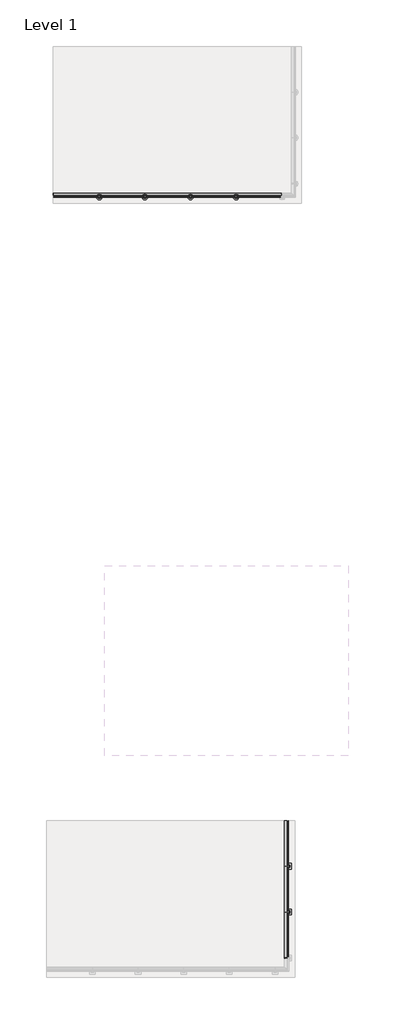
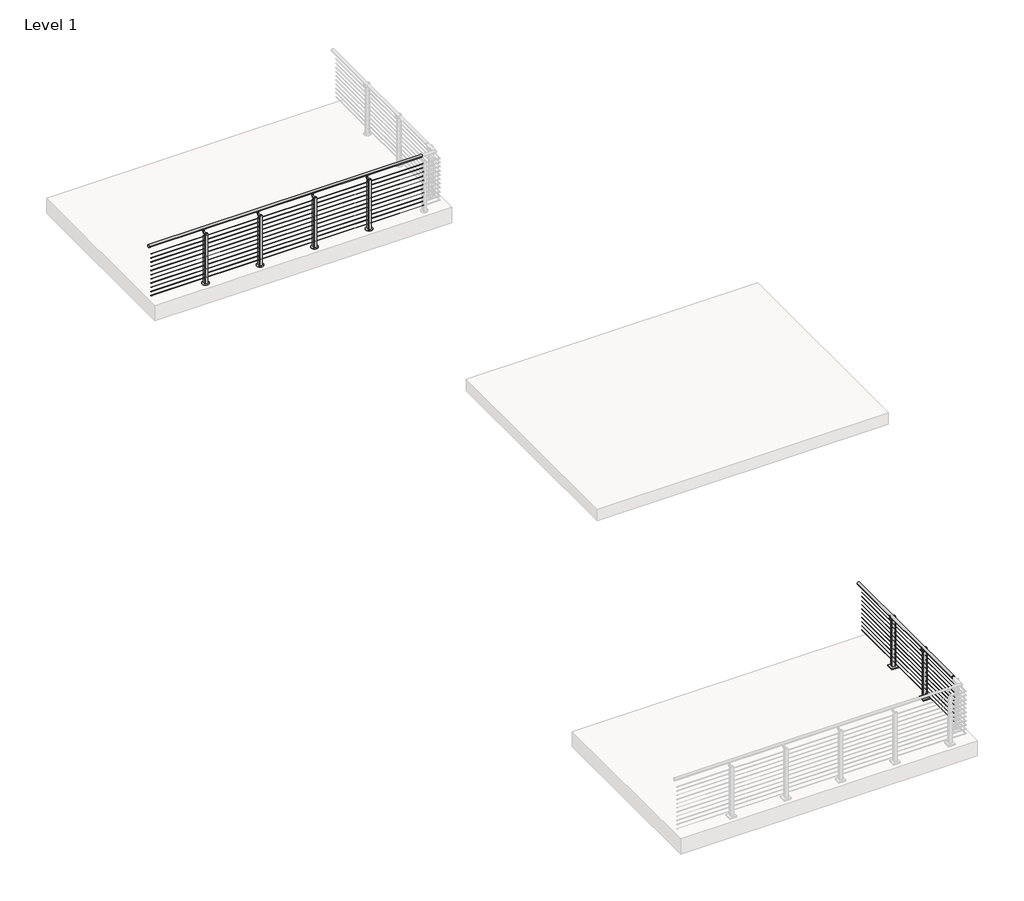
# One storey, part 5 of 9: 2 railings.
"""IFC4 building model written with IfcOpenShell, lengths in millimetres."""

from ifc_helpers import new_model, si_unit, point, frame, frame_2d, origin, origin_with_axes, place, context, project, spatial, polyline, circle_curve, trimmed, segment, composite_curve, outline, extrude, element, save
from ifc_brep_helpers import plane_surface, cylinder_surface, advanced_brep

model = new_model("IFC4")

# Units and contexts
model_context = context("Model", 3, world=origin())
ifc_project = project(units=[si_unit("LENGTHUNIT", "METRE", prefix="MILLI")], contexts=[model_context])

# Site, building, storey
site = spatial("IfcSite", under=ifc_project)
building = spatial("IfcBuilding", under=site)
storey = spatial("IfcBuildingStorey", under=building, Name="Level 1", Elevation=0.0)

# Railings
placement = place(None, origin())
element("IfcRailing", 1, ObjectType="VIVA-TEE-Cable-Core Mount-Straight", at=placement, inside=storey, context=model_context, shape_type="SolidModel", body=[
    advanced_brep(
    [(-5235.0460999, -23177.0084719, 1054.1), (-5235.0460999, -23126.2084719, 1054.1), (-10315.0460999, -23126.2084719, 1054.1), (-10315.0460999, -23177.0084719, 1054.1), (-10325.4777245, -23177.0084719, 1054.1), (-10325.4777245, -23126.2084719, 1054.1)],
    [
        (0, 1, circle_curve(frame((-5235.0460999, -23151.6084719, 1054.1), z_axis=(1.0, 0.0, 0.0), x_axis=(0.0, 1.0, 0.0)), 25.4)),
        (1, 0, circle_curve(frame((-5235.0460999, -23151.6084719, 1054.1), z_axis=(1.0, 0.0, 0.0), x_axis=(0.0, 1.0, 0.0)), 25.4)),
        (2, 3, circle_curve(frame((-10315.0460999, -23151.6084719, 1054.1), z_axis=(1.0, 0.0, 0.0), x_axis=(0.0, 1.0, 0.0)), 25.4)),
        (3, 0),
        (1, 2),
        (3, 2, circle_curve(frame((-10315.0460999, -23151.6084719, 1054.1), z_axis=(1.0, 0.0, 0.0), x_axis=(0.0, 1.0, 0.0)), 25.4)),
        (4, 5, circle_curve(frame((-10325.4777245, -23151.6084719, 1054.1), z_axis=(-1.0, 0.0, 0.0), x_axis=(0.0, 1.0, 0.0)), 25.4)),
        (5, 4, circle_curve(frame((-10325.4777245, -23151.6084719, 1054.1), z_axis=(-1.0, 0.0, 0.0), x_axis=(0.0, 1.0, 0.0)), 25.4)),
        (4, 3),
        (2, 5),
    ],
    [
        plane_surface(frame((-5235.0460999, -23151.6084719, 1079.5), z_axis=(1.0, 0.0, 0.0), x_axis=(0.0, 1.0, 0.0))),
        cylinder_surface(frame((-10315.0460999, -23151.6084719, 1054.1), z_axis=(-1.0, 0.0, 0.0), x_axis=(0.0, 1.0, 0.0)), 25.4),
        plane_surface(frame((-10325.4777245, -23151.6084719, 1079.5), z_axis=(-1.0, 0.0, 0.0), x_axis=(0.0, 1.0, 0.0))),
        cylinder_surface(frame((-10325.4777245, -23151.6084719, 1054.1), z_axis=(-1.0, 0.0, 0.0), x_axis=(0.0, 1.0, 0.0)), 25.4),
    ],
    [
        (0, [[1, 2]]),
        (1, [[3, 4, -2, 5]]),
        (1, [[6, -5, -1, -4]]),
        (2, [[7, 8]]),
        (3, [[-7, 9, -3, 10]]),
        (3, [[-8, -10, -6, -9]]),
    ],
),
    extrude(outline(composite_curve([segment(trimmed(circle_curve(frame_2d((-23211.9334719, 937.4124)), 2.3876), [point((-23209.5458719, 937.4124))], [point((-23214.3210719, 937.4124))], False, "CARTESIAN"), True, "CONTINUOUS"), segment(trimmed(circle_curve(frame_2d((-23211.9334719, 937.4124)), 2.3876), [point((-23214.3210719, 937.4124))], [point((-23209.5458719, 937.4124))], False, "CARTESIAN"), True, "CONTINUOUS")], self_intersect=False)), frame((-10315.0460999, 0.0, 0.0), z_axis=(1.0, 0.0, 0.0), x_axis=(0.0, 1.0, 0.0)), (0.0, 0.0, 1.0), 5080.0),
    extrude(outline(composite_curve([segment(trimmed(circle_curve(frame_2d((-23211.9334719, 854.8624)), 2.3876), [point((-23209.5458719, 854.8624))], [point((-23214.3210719, 854.8624))], False, "CARTESIAN"), True, "CONTINUOUS"), segment(trimmed(circle_curve(frame_2d((-23211.9334719, 854.8624)), 2.3876), [point((-23214.3210719, 854.8624))], [point((-23209.5458719, 854.8624))], False, "CARTESIAN"), True, "CONTINUOUS")], self_intersect=False)), frame((-10315.0460999, 0.0, 0.0), z_axis=(1.0, 0.0, 0.0), x_axis=(0.0, 1.0, 0.0)), (0.0, 0.0, 1.0), 5080.0),
    extrude(outline(composite_curve([segment(trimmed(circle_curve(frame_2d((-23211.9334719, 772.3124)), 2.3876), [point((-23209.5458719, 772.3124))], [point((-23214.3210719, 772.3124))], False, "CARTESIAN"), True, "CONTINUOUS"), segment(trimmed(circle_curve(frame_2d((-23211.9334719, 772.3124)), 2.3876), [point((-23214.3210719, 772.3124))], [point((-23209.5458719, 772.3124))], False, "CARTESIAN"), True, "CONTINUOUS")], self_intersect=False)), frame((-10315.0460999, 0.0, 0.0), z_axis=(1.0, 0.0, 0.0), x_axis=(0.0, 1.0, 0.0)), (0.0, 0.0, 1.0), 5080.0),
    extrude(outline(composite_curve([segment(trimmed(circle_curve(frame_2d((-23211.9334719, 689.7624)), 2.3876), [point((-23209.5458719, 689.7624))], [point((-23214.3210719, 689.7624))], False, "CARTESIAN"), True, "CONTINUOUS"), segment(trimmed(circle_curve(frame_2d((-23211.9334719, 689.7624)), 2.3876), [point((-23214.3210719, 689.7624))], [point((-23209.5458719, 689.7624))], False, "CARTESIAN"), True, "CONTINUOUS")], self_intersect=False)), frame((-10315.0460999, 0.0, 0.0), z_axis=(1.0, 0.0, 0.0), x_axis=(0.0, 1.0, 0.0)), (0.0, 0.0, 1.0), 5080.0),
    extrude(outline(composite_curve([segment(trimmed(circle_curve(frame_2d((-23211.9334719, 607.2124)), 2.3876), [point((-23209.5458719, 607.2124))], [point((-23214.3210719, 607.2124))], False, "CARTESIAN"), True, "CONTINUOUS"), segment(trimmed(circle_curve(frame_2d((-23211.9334719, 607.2124)), 2.3876), [point((-23214.3210719, 607.2124))], [point((-23209.5458719, 607.2124))], False, "CARTESIAN"), True, "CONTINUOUS")], self_intersect=False)), frame((-10315.0460999, 0.0, 0.0), z_axis=(1.0, 0.0, 0.0), x_axis=(0.0, 1.0, 0.0)), (0.0, 0.0, 1.0), 5080.0),
    extrude(outline(composite_curve([segment(trimmed(circle_curve(frame_2d((-23211.9334719, 524.6624)), 2.3876), [point((-23209.5458719, 524.6624))], [point((-23214.3210719, 524.6624))], False, "CARTESIAN"), True, "CONTINUOUS"), segment(trimmed(circle_curve(frame_2d((-23211.9334719, 524.6624)), 2.3876), [point((-23214.3210719, 524.6624))], [point((-23209.5458719, 524.6624))], False, "CARTESIAN"), True, "CONTINUOUS")], self_intersect=False)), frame((-10315.0460999, 0.0, 0.0), z_axis=(1.0, 0.0, 0.0), x_axis=(0.0, 1.0, 0.0)), (0.0, 0.0, 1.0), 5080.0),
    extrude(outline(composite_curve([segment(trimmed(circle_curve(frame_2d((-23211.9334719, 442.1124)), 2.3876), [point((-23209.5458719, 442.1124))], [point((-23214.3210719, 442.1124))], False, "CARTESIAN"), True, "CONTINUOUS"), segment(trimmed(circle_curve(frame_2d((-23211.9334719, 442.1124)), 2.3876), [point((-23214.3210719, 442.1124))], [point((-23209.5458719, 442.1124))], False, "CARTESIAN"), True, "CONTINUOUS")], self_intersect=False)), frame((-10315.0460999, 0.0, 0.0), z_axis=(1.0, 0.0, 0.0), x_axis=(0.0, 1.0, 0.0)), (0.0, 0.0, 1.0), 5080.0),
    extrude(outline(composite_curve([segment(trimmed(circle_curve(frame_2d((-23211.9334719, 359.5624)), 2.3876), [point((-23209.5458719, 359.5624))], [point((-23214.3210719, 359.5624))], False, "CARTESIAN"), True, "CONTINUOUS"), segment(trimmed(circle_curve(frame_2d((-23211.9334719, 359.5624)), 2.3876), [point((-23214.3210719, 359.5624))], [point((-23209.5458719, 359.5624))], False, "CARTESIAN"), True, "CONTINUOUS")], self_intersect=False)), frame((-10315.0460999, 0.0, 0.0), z_axis=(1.0, 0.0, 0.0), x_axis=(0.0, 1.0, 0.0)), (0.0, 0.0, 1.0), 5080.0),
    extrude(outline(composite_curve([segment(trimmed(circle_curve(frame_2d((-23211.9334719, 277.0124)), 2.3876), [point((-23209.5458719, 277.0124))], [point((-23214.3210719, 277.0124))], False, "CARTESIAN"), True, "CONTINUOUS"), segment(trimmed(circle_curve(frame_2d((-23211.9334719, 277.0124)), 2.3876), [point((-23214.3210719, 277.0124))], [point((-23209.5458719, 277.0124))], False, "CARTESIAN"), True, "CONTINUOUS")], self_intersect=False)), frame((-10315.0460999, 0.0, 0.0), z_axis=(1.0, 0.0, 0.0), x_axis=(0.0, 1.0, 0.0)), (0.0, 0.0, 1.0), 5080.0),
    extrude(outline(composite_curve([segment(trimmed(circle_curve(frame_2d((-23211.9334719, 194.4624)), 2.3876), [point((-23209.5458719, 194.4624))], [point((-23214.3210719, 194.4624))], False, "CARTESIAN"), True, "CONTINUOUS"), segment(trimmed(circle_curve(frame_2d((-23211.9334719, 194.4624)), 2.3876), [point((-23214.3210719, 194.4624))], [point((-23209.5458719, 194.4624))], False, "CARTESIAN"), True, "CONTINUOUS")], self_intersect=False)), frame((-10315.0460999, 0.0, 0.0), z_axis=(1.0, 0.0, 0.0), x_axis=(0.0, 1.0, 0.0)), (0.0, 0.0, 1.0), 5080.0),
    extrude(outline(composite_curve([segment(trimmed(circle_curve(frame_2d((-23211.9334719, 111.9124)), 2.3876), [point((-23209.5458719, 111.9124))], [point((-23214.3210719, 111.9124))], False, "CARTESIAN"), True, "CONTINUOUS"), segment(trimmed(circle_curve(frame_2d((-23211.9334719, 111.9124)), 2.3876), [point((-23214.3210719, 111.9124))], [point((-23209.5458719, 111.9124))], False, "CARTESIAN"), True, "CONTINUOUS")], self_intersect=False)), frame((-10315.0460999, 0.0, 0.0), z_axis=(1.0, 0.0, 0.0), x_axis=(0.0, 1.0, 0.0)), (0.0, 0.0, 1.0), 5080.0),
    extrude(outline(composite_curve([segment(trimmed(circle_curve(frame_2d((0.0, 7.0)), 7.0), [point((0.0, 14.0))], [point((0.0, 0.0))], False, "CARTESIAN"), True, "CONTINUOUS"), segment(trimmed(circle_curve(frame_2d((0.0, 7.0)), 7.0), [point((0.0, 0.0))], [point((0.0, 14.0))], False, "CARTESIAN"), True, "CONTINUOUS")], self_intersect=False)), frame((-6250.97239, -23158.3183256, 949.1832524), z_axis=(0.004253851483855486, 0.0, 0.9999909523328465), x_axis=(0.9999909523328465, 0.0, -0.004253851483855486)), (0.0, 0.0, 1.0), 75.97),
    extrude(outline(composite_curve([segment(trimmed(circle_curve(frame_2d((-23151.1769216, 1047.2025651)), 19.05), [point((-23164.7065099, 1033.7916463))], [point((-23137.6473334, 1033.7916463))], True, "CARTESIAN"), True, "CONTINUOUS"), segment(polyline([(-23137.6473334, 1033.7916463), (-23136.6209438, 1032.7742593)]), True, "CONTINUOUS"), segment(trimmed(circle_curve(frame_2d((-23137.6769216, 1031.7089374)), 1.5), [point((-23136.6209438, 1032.7742593))], [point((-23136.6915202, 1030.5780156))], False, "CARTESIAN"), True, "CONTINUOUS"), segment(trimmed(circle_curve(frame_2d((-23151.1769216, 1047.2025651)), 22.05), [point((-23136.6915202, 1030.5780156))], [point((-23165.6623231, 1030.5780156))], False, "CARTESIAN"), True, "CONTINUOUS"), segment(trimmed(circle_curve(frame_2d((-23164.6769216, 1031.7089374)), 1.5), [point((-23165.6623231, 1030.5780156))], [point((-23165.7328995, 1032.7742593))], False, "CARTESIAN"), True, "CONTINUOUS"), segment(polyline([(-23165.7328995, 1032.7742593), (-23164.7065099, 1033.7916463)]), True, "CONTINUOUS")], self_intersect=False)), frame((-6286.5108641, 0.0, 0.0), z_axis=(1.0, 0.0, 0.0), x_axis=(0.0, 1.0, 0.0)), (0.0, 0.0, 1.0), 74.5229187),
    extrude(outline(composite_curve([segment(trimmed(circle_curve(frame_2d((976.1259188, -6250.7680595)), 12.5), [point((976.1259188, -6263.2680595))], [point((976.1259188, -6238.2680595))], False, "CARTESIAN"), True, "CONTINUOUS"), segment(trimmed(circle_curve(frame_2d((976.1259188, -6250.7680595)), 12.5), [point((976.1259188, -6238.2680595))], [point((976.1259188, -6263.2680595))], False, "CARTESIAN"), True, "CONTINUOUS")], self_intersect=False)), frame((0.0, -23231.0843116, 0.0), z_axis=(0.0, 1.0, 0.0), x_axis=(0.0, 0.0, 1.0)), (0.0, 0.0, 1.0), 92.423),
    extrude(outline(composite_curve([segment(trimmed(circle_curve(frame_2d((-6250.6492249, -23211.9334719)), 63.5), [point((-6250.6492249, -23275.4334719))], [point((-6250.6492249, -23148.4334719))], False, "CARTESIAN"), True, "CONTINUOUS"), segment(trimmed(circle_curve(frame_2d((-6250.6492249, -23211.9334719)), 63.5), [point((-6250.6492249, -23148.4334719))], [point((-6250.6492249, -23275.4334719))], False, "CARTESIAN"), True, "CONTINUOUS")], self_intersect=False)), origin_with_axes(), (0.0, 0.0, 1.0), 6.35),
    extrude(outline(composite_curve([segment(trimmed(circle_curve(frame_2d((-23204.9180203, 924.2425)), 24.765), [point((-23204.9180203, 949.0075))], [point((-23180.1530203, 924.2425))], False, "CARTESIAN"), True, "CONTINUOUS"), segment(polyline([(-23180.1530203, 924.2425), (-23180.1530203, -196.85), (-23230.9834719, -196.85), (-23230.9834719, 949.0075), (-23204.9180203, 949.0075)]), True, "CONTINUOUS")], self_intersect=False)), frame((-6236.6457253, 0.0, 0.0), z_axis=(1.0, 0.0, 0.0), x_axis=(0.0, 1.0, 0.0)), (0.0, 0.0, 1.0), 9.525),
    extrude(outline(composite_curve([segment(polyline([(-196.85, -6225.2492249), (979.17, -6225.2492249)]), True, "CONTINUOUS"), segment(trimmed(circle_curve(frame_2d((979.17, -6250.6492249)), 25.4), [point((979.17, -6225.2492249))], [point((979.17, -6276.0492249))], False, "CARTESIAN"), True, "CONTINUOUS"), segment(polyline([(979.17, -6276.0492249), (-196.85, -6276.0492249), (-196.85, -6225.2492249)]), True, "CONTINUOUS")], self_intersect=False)), frame((0.0, -23240.5084719, 0.0), z_axis=(0.0, 1.0, 0.0), x_axis=(0.0, 0.0, 1.0)), (0.0, 0.0, 1.0), 9.525),
    extrude(outline(composite_curve([segment(trimmed(circle_curve(frame_2d((-23204.9180203, 924.2425)), 24.765), [point((-23204.9180203, 949.0075))], [point((-23180.1530203, 924.2425))], False, "CARTESIAN"), True, "CONTINUOUS"), segment(polyline([(-23180.1530203, 924.2425), (-23180.1530203, -196.85), (-23230.9834719, -196.85), (-23230.9834719, 949.0075), (-23204.9180203, 949.0075)]), True, "CONTINUOUS")], self_intersect=False)), frame((-6274.1777245, 0.0, 0.0), z_axis=(1.0, 0.0, 0.0), x_axis=(0.0, 1.0, 0.0)), (0.0, 0.0, 1.0), 9.525),
    extrude(outline(composite_curve([segment(trimmed(circle_curve(frame_2d((0.0, 7.0)), 7.0), [point((0.0, 14.0))], [point((0.0, 0.0))], False, "CARTESIAN"), True, "CONTINUOUS"), segment(trimmed(circle_curve(frame_2d((0.0, 7.0)), 7.0), [point((0.0, 0.0))], [point((0.0, 14.0))], False, "CARTESIAN"), True, "CONTINUOUS")], self_intersect=False)), frame((-7266.97239, -23158.3183256, 949.1832524), z_axis=(0.004253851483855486, 0.0, 0.9999909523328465), x_axis=(0.9999909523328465, 0.0, -0.004253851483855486)), (0.0, 0.0, 1.0), 75.97),
    extrude(outline(composite_curve([segment(trimmed(circle_curve(frame_2d((-23151.1769216, 1047.2025651)), 19.05), [point((-23164.7065099, 1033.7916463))], [point((-23137.6473334, 1033.7916463))], True, "CARTESIAN"), True, "CONTINUOUS"), segment(polyline([(-23137.6473334, 1033.7916463), (-23136.6209438, 1032.7742593)]), True, "CONTINUOUS"), segment(trimmed(circle_curve(frame_2d((-23137.6769216, 1031.7089374)), 1.5), [point((-23136.6209438, 1032.7742593))], [point((-23136.6915202, 1030.5780156))], False, "CARTESIAN"), True, "CONTINUOUS"), segment(trimmed(circle_curve(frame_2d((-23151.1769216, 1047.2025651)), 22.05), [point((-23136.6915202, 1030.5780156))], [point((-23165.6623231, 1030.5780156))], False, "CARTESIAN"), True, "CONTINUOUS"), segment(trimmed(circle_curve(frame_2d((-23164.6769216, 1031.7089374)), 1.5), [point((-23165.6623231, 1030.5780156))], [point((-23165.7328995, 1032.7742593))], False, "CARTESIAN"), True, "CONTINUOUS"), segment(polyline([(-23165.7328995, 1032.7742593), (-23164.7065099, 1033.7916463)]), True, "CONTINUOUS")], self_intersect=False)), frame((-7302.5108641, 0.0, 0.0), z_axis=(1.0, 0.0, 0.0), x_axis=(0.0, 1.0, 0.0)), (0.0, 0.0, 1.0), 74.5229187),
    extrude(outline(composite_curve([segment(trimmed(circle_curve(frame_2d((976.1259188, -7266.7680595)), 12.5), [point((976.1259188, -7279.2680595))], [point((976.1259188, -7254.2680595))], False, "CARTESIAN"), True, "CONTINUOUS"), segment(trimmed(circle_curve(frame_2d((976.1259188, -7266.7680595)), 12.5), [point((976.1259188, -7254.2680595))], [point((976.1259188, -7279.2680595))], False, "CARTESIAN"), True, "CONTINUOUS")], self_intersect=False)), frame((0.0, -23231.0843116, 0.0), z_axis=(0.0, 1.0, 0.0), x_axis=(0.0, 0.0, 1.0)), (0.0, 0.0, 1.0), 92.423),
    extrude(outline(composite_curve([segment(trimmed(circle_curve(frame_2d((-7266.6492249, -23211.9334719)), 63.5), [point((-7266.6492249, -23275.4334719))], [point((-7266.6492249, -23148.4334719))], False, "CARTESIAN"), True, "CONTINUOUS"), segment(trimmed(circle_curve(frame_2d((-7266.6492249, -23211.9334719)), 63.5), [point((-7266.6492249, -23148.4334719))], [point((-7266.6492249, -23275.4334719))], False, "CARTESIAN"), True, "CONTINUOUS")], self_intersect=False)), origin_with_axes(), (0.0, 0.0, 1.0), 6.35),
    extrude(outline(composite_curve([segment(trimmed(circle_curve(frame_2d((-23204.9180203, 924.2425)), 24.765), [point((-23204.9180203, 949.0075))], [point((-23180.1530203, 924.2425))], False, "CARTESIAN"), True, "CONTINUOUS"), segment(polyline([(-23180.1530203, 924.2425), (-23180.1530203, -196.85), (-23230.9834719, -196.85), (-23230.9834719, 949.0075), (-23204.9180203, 949.0075)]), True, "CONTINUOUS")], self_intersect=False)), frame((-7252.6457253, 0.0, 0.0), z_axis=(1.0, 0.0, 0.0), x_axis=(0.0, 1.0, 0.0)), (0.0, 0.0, 1.0), 9.525),
    extrude(outline(composite_curve([segment(polyline([(-196.85, -7241.2492249), (979.17, -7241.2492249)]), True, "CONTINUOUS"), segment(trimmed(circle_curve(frame_2d((979.17, -7266.6492249)), 25.4), [point((979.17, -7241.2492249))], [point((979.17, -7292.0492249))], False, "CARTESIAN"), True, "CONTINUOUS"), segment(polyline([(979.17, -7292.0492249), (-196.85, -7292.0492249), (-196.85, -7241.2492249)]), True, "CONTINUOUS")], self_intersect=False)), frame((0.0, -23240.5084719, 0.0), z_axis=(0.0, 1.0, 0.0), x_axis=(0.0, 0.0, 1.0)), (0.0, 0.0, 1.0), 9.525),
    extrude(outline(composite_curve([segment(trimmed(circle_curve(frame_2d((-23204.9180203, 924.2425)), 24.765), [point((-23204.9180203, 949.0075))], [point((-23180.1530203, 924.2425))], False, "CARTESIAN"), True, "CONTINUOUS"), segment(polyline([(-23180.1530203, 924.2425), (-23180.1530203, -196.85), (-23230.9834719, -196.85), (-23230.9834719, 949.0075), (-23204.9180203, 949.0075)]), True, "CONTINUOUS")], self_intersect=False)), frame((-7290.1777245, 0.0, 0.0), z_axis=(1.0, 0.0, 0.0), x_axis=(0.0, 1.0, 0.0)), (0.0, 0.0, 1.0), 9.525),
    extrude(outline(composite_curve([segment(trimmed(circle_curve(frame_2d((0.0, 7.0)), 7.0), [point((0.0, 14.0))], [point((0.0, 0.0))], False, "CARTESIAN"), True, "CONTINUOUS"), segment(trimmed(circle_curve(frame_2d((0.0, 7.0)), 7.0), [point((0.0, 0.0))], [point((0.0, 14.0))], False, "CARTESIAN"), True, "CONTINUOUS")], self_intersect=False)), frame((-8282.97239, -23158.3183256, 949.1832524), z_axis=(0.004253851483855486, 0.0, 0.9999909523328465), x_axis=(0.9999909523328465, 0.0, -0.004253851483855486)), (0.0, 0.0, 1.0), 75.97),
    extrude(outline(composite_curve([segment(trimmed(circle_curve(frame_2d((-23151.1769216, 1047.2025651)), 19.05), [point((-23164.7065099, 1033.7916463))], [point((-23137.6473334, 1033.7916463))], True, "CARTESIAN"), True, "CONTINUOUS"), segment(polyline([(-23137.6473334, 1033.7916463), (-23136.6209438, 1032.7742593)]), True, "CONTINUOUS"), segment(trimmed(circle_curve(frame_2d((-23137.6769216, 1031.7089374)), 1.5), [point((-23136.6209438, 1032.7742593))], [point((-23136.6915202, 1030.5780156))], False, "CARTESIAN"), True, "CONTINUOUS"), segment(trimmed(circle_curve(frame_2d((-23151.1769216, 1047.2025651)), 22.05), [point((-23136.6915202, 1030.5780156))], [point((-23165.6623231, 1030.5780156))], False, "CARTESIAN"), True, "CONTINUOUS"), segment(trimmed(circle_curve(frame_2d((-23164.6769216, 1031.7089374)), 1.5), [point((-23165.6623231, 1030.5780156))], [point((-23165.7328995, 1032.7742593))], False, "CARTESIAN"), True, "CONTINUOUS"), segment(polyline([(-23165.7328995, 1032.7742593), (-23164.7065099, 1033.7916463)]), True, "CONTINUOUS")], self_intersect=False)), frame((-8318.5108641, 0.0, 0.0), z_axis=(1.0, 0.0, 0.0), x_axis=(0.0, 1.0, 0.0)), (0.0, 0.0, 1.0), 74.5229187),
    extrude(outline(composite_curve([segment(trimmed(circle_curve(frame_2d((976.1259188, -8282.7680595)), 12.5), [point((976.1259188, -8295.2680595))], [point((976.1259188, -8270.2680595))], False, "CARTESIAN"), True, "CONTINUOUS"), segment(trimmed(circle_curve(frame_2d((976.1259188, -8282.7680595)), 12.5), [point((976.1259188, -8270.2680595))], [point((976.1259188, -8295.2680595))], False, "CARTESIAN"), True, "CONTINUOUS")], self_intersect=False)), frame((0.0, -23231.0843116, 0.0), z_axis=(0.0, 1.0, 0.0), x_axis=(0.0, 0.0, 1.0)), (0.0, 0.0, 1.0), 92.423),
    extrude(outline(composite_curve([segment(trimmed(circle_curve(frame_2d((-8282.6492249, -23211.9334719)), 63.5), [point((-8282.6492249, -23275.4334719))], [point((-8282.6492249, -23148.4334719))], False, "CARTESIAN"), True, "CONTINUOUS"), segment(trimmed(circle_curve(frame_2d((-8282.6492249, -23211.9334719)), 63.5), [point((-8282.6492249, -23148.4334719))], [point((-8282.6492249, -23275.4334719))], False, "CARTESIAN"), True, "CONTINUOUS")], self_intersect=False)), origin_with_axes(), (0.0, 0.0, 1.0), 6.35),
    extrude(outline(composite_curve([segment(trimmed(circle_curve(frame_2d((-23204.9180203, 924.2425)), 24.765), [point((-23204.9180203, 949.0075))], [point((-23180.1530203, 924.2425))], False, "CARTESIAN"), True, "CONTINUOUS"), segment(polyline([(-23180.1530203, 924.2425), (-23180.1530203, -196.85), (-23230.9834719, -196.85), (-23230.9834719, 949.0075), (-23204.9180203, 949.0075)]), True, "CONTINUOUS")], self_intersect=False)), frame((-8268.6457253, 0.0, 0.0), z_axis=(1.0, 0.0, 0.0), x_axis=(0.0, 1.0, 0.0)), (0.0, 0.0, 1.0), 9.525),
    extrude(outline(composite_curve([segment(polyline([(-196.85, -8257.2492249), (979.17, -8257.2492249)]), True, "CONTINUOUS"), segment(trimmed(circle_curve(frame_2d((979.17, -8282.6492249)), 25.4), [point((979.17, -8257.2492249))], [point((979.17, -8308.0492249))], False, "CARTESIAN"), True, "CONTINUOUS"), segment(polyline([(979.17, -8308.0492249), (-196.85, -8308.0492249), (-196.85, -8257.2492249)]), True, "CONTINUOUS")], self_intersect=False)), frame((0.0, -23240.5084719, 0.0), z_axis=(0.0, 1.0, 0.0), x_axis=(0.0, 0.0, 1.0)), (0.0, 0.0, 1.0), 9.525),
    extrude(outline(composite_curve([segment(trimmed(circle_curve(frame_2d((-23204.9180203, 924.2425)), 24.765), [point((-23204.9180203, 949.0075))], [point((-23180.1530203, 924.2425))], False, "CARTESIAN"), True, "CONTINUOUS"), segment(polyline([(-23180.1530203, 924.2425), (-23180.1530203, -196.85), (-23230.9834719, -196.85), (-23230.9834719, 949.0075), (-23204.9180203, 949.0075)]), True, "CONTINUOUS")], self_intersect=False)), frame((-8306.1777245, 0.0, 0.0), z_axis=(1.0, 0.0, 0.0), x_axis=(0.0, 1.0, 0.0)), (0.0, 0.0, 1.0), 9.525),
    extrude(outline(composite_curve([segment(trimmed(circle_curve(frame_2d((0.0, 7.0)), 7.0), [point((0.0, 14.0))], [point((0.0, 0.0))], False, "CARTESIAN"), True, "CONTINUOUS"), segment(trimmed(circle_curve(frame_2d((0.0, 7.0)), 7.0), [point((0.0, 0.0))], [point((0.0, 14.0))], False, "CARTESIAN"), True, "CONTINUOUS")], self_intersect=False)), frame((-9298.97239, -23158.3183256, 949.1832524), z_axis=(0.004253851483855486, 0.0, 0.9999909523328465), x_axis=(0.9999909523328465, 0.0, -0.004253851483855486)), (0.0, 0.0, 1.0), 75.97),
    extrude(outline(composite_curve([segment(trimmed(circle_curve(frame_2d((-23151.1769216, 1047.2025651)), 19.05), [point((-23164.7065099, 1033.7916463))], [point((-23137.6473334, 1033.7916463))], True, "CARTESIAN"), True, "CONTINUOUS"), segment(polyline([(-23137.6473334, 1033.7916463), (-23136.6209438, 1032.7742593)]), True, "CONTINUOUS"), segment(trimmed(circle_curve(frame_2d((-23137.6769216, 1031.7089374)), 1.5), [point((-23136.6209438, 1032.7742593))], [point((-23136.6915202, 1030.5780156))], False, "CARTESIAN"), True, "CONTINUOUS"), segment(trimmed(circle_curve(frame_2d((-23151.1769216, 1047.2025651)), 22.05), [point((-23136.6915202, 1030.5780156))], [point((-23165.6623231, 1030.5780156))], False, "CARTESIAN"), True, "CONTINUOUS"), segment(trimmed(circle_curve(frame_2d((-23164.6769216, 1031.7089374)), 1.5), [point((-23165.6623231, 1030.5780156))], [point((-23165.7328995, 1032.7742593))], False, "CARTESIAN"), True, "CONTINUOUS"), segment(polyline([(-23165.7328995, 1032.7742593), (-23164.7065099, 1033.7916463)]), True, "CONTINUOUS")], self_intersect=False)), frame((-9334.5108641, 0.0, 0.0), z_axis=(1.0, 0.0, 0.0), x_axis=(0.0, 1.0, 0.0)), (0.0, 0.0, 1.0), 74.5229187),
    extrude(outline(composite_curve([segment(trimmed(circle_curve(frame_2d((976.1259188, -9298.7680595)), 12.5), [point((976.1259188, -9311.2680595))], [point((976.1259188, -9286.2680595))], False, "CARTESIAN"), True, "CONTINUOUS"), segment(trimmed(circle_curve(frame_2d((976.1259188, -9298.7680595)), 12.5), [point((976.1259188, -9286.2680595))], [point((976.1259188, -9311.2680595))], False, "CARTESIAN"), True, "CONTINUOUS")], self_intersect=False)), frame((0.0, -23231.0843116, 0.0), z_axis=(0.0, 1.0, 0.0), x_axis=(0.0, 0.0, 1.0)), (0.0, 0.0, 1.0), 92.423),
    extrude(outline(composite_curve([segment(trimmed(circle_curve(frame_2d((-9298.6492249, -23211.9334719)), 63.5), [point((-9298.6492249, -23275.4334719))], [point((-9298.6492249, -23148.4334719))], False, "CARTESIAN"), True, "CONTINUOUS"), segment(trimmed(circle_curve(frame_2d((-9298.6492249, -23211.9334719)), 63.5), [point((-9298.6492249, -23148.4334719))], [point((-9298.6492249, -23275.4334719))], False, "CARTESIAN"), True, "CONTINUOUS")], self_intersect=False)), origin_with_axes(), (0.0, 0.0, 1.0), 6.35),
    extrude(outline(composite_curve([segment(trimmed(circle_curve(frame_2d((-23204.9180203, 924.2425)), 24.765), [point((-23204.9180203, 949.0075))], [point((-23180.1530203, 924.2425))], False, "CARTESIAN"), True, "CONTINUOUS"), segment(polyline([(-23180.1530203, 924.2425), (-23180.1530203, -196.85), (-23230.9834719, -196.85), (-23230.9834719, 949.0075), (-23204.9180203, 949.0075)]), True, "CONTINUOUS")], self_intersect=False)), frame((-9284.6457253, 0.0, 0.0), z_axis=(1.0, 0.0, 0.0), x_axis=(0.0, 1.0, 0.0)), (0.0, 0.0, 1.0), 9.525),
    extrude(outline(composite_curve([segment(polyline([(-196.85, -9273.2492249), (979.17, -9273.2492249)]), True, "CONTINUOUS"), segment(trimmed(circle_curve(frame_2d((979.17, -9298.6492249)), 25.4), [point((979.17, -9273.2492249))], [point((979.17, -9324.0492249))], False, "CARTESIAN"), True, "CONTINUOUS"), segment(polyline([(979.17, -9324.0492249), (-196.85, -9324.0492249), (-196.85, -9273.2492249)]), True, "CONTINUOUS")], self_intersect=False)), frame((0.0, -23240.5084719, 0.0), z_axis=(0.0, 1.0, 0.0), x_axis=(0.0, 0.0, 1.0)), (0.0, 0.0, 1.0), 9.525),
    extrude(outline(composite_curve([segment(trimmed(circle_curve(frame_2d((-23204.9180203, 924.2425)), 24.765), [point((-23204.9180203, 949.0075))], [point((-23180.1530203, 924.2425))], False, "CARTESIAN"), True, "CONTINUOUS"), segment(polyline([(-23180.1530203, 924.2425), (-23180.1530203, -196.85), (-23230.9834719, -196.85), (-23230.9834719, 949.0075), (-23204.9180203, 949.0075)]), True, "CONTINUOUS")], self_intersect=False)), frame((-9322.1777245, 0.0, 0.0), z_axis=(1.0, 0.0, 0.0), x_axis=(0.0, 1.0, 0.0)), (0.0, 0.0, 1.0), 9.525),
])
element("IfcRailing", 2, ObjectType="VIVA-TEE-Cable-Floor Mount-Straight", at=placement, inside=storey, context=model_context, shape_type="SolidModel", body=[
    advanced_brep(
    [(-5119.8394753, -40152.4726373, 1054.1), (-5170.6394753, -40152.4726373, 1054.1), (-5119.8394753, -40142.7434438, 1054.1), (-5170.6394753, -40142.7434438, 1054.1), (-5119.8394753, -37094.7434438, 1054.1), (-5170.6394753, -37094.7434438, 1054.1)],
    [
        (0, 1, circle_curve(frame((-5145.2394753, -40152.4726373, 1054.1), z_axis=(0.0, -1.0, 0.0), x_axis=(-1.0, 0.0, 0.0)), 25.4)),
        (1, 0, circle_curve(frame((-5145.2394753, -40152.4726373, 1054.1), z_axis=(0.0, -1.0, 0.0), x_axis=(-1.0, 0.0, 0.0)), 25.4)),
        (0, 2),
        (2, 3, circle_curve(frame((-5145.2394753, -40142.7434438, 1054.1), z_axis=(0.0, -1.0, 0.0), x_axis=(-1.0, 0.0, 0.0)), 25.4)),
        (3, 1),
        (3, 2, circle_curve(frame((-5145.2394753, -40142.7434438, 1054.1), z_axis=(0.0, -1.0, 0.0), x_axis=(-1.0, 0.0, 0.0)), 25.4)),
        (4, 5, circle_curve(frame((-5145.2394753, -37094.7434438, 1054.1), z_axis=(0.0, 1.0, 0.0), x_axis=(-1.0, 0.0, 0.0)), 25.4)),
        (5, 4, circle_curve(frame((-5145.2394753, -37094.7434438, 1054.1), z_axis=(0.0, 1.0, 0.0), x_axis=(-1.0, 0.0, 0.0)), 25.4)),
        (2, 4),
        (5, 3),
    ],
    [
        plane_surface(frame((-5145.2394753, -40152.4726373, 1079.5), z_axis=(0.0, -1.0, 0.0), x_axis=(0.0, 0.0, 1.0))),
        cylinder_surface(frame((-5145.2394753, -40152.4726373, 1054.1), z_axis=(0.0, -1.0, 0.0), x_axis=(-1.0, 0.0, 0.0)), 25.4),
        plane_surface(frame((-5145.2394753, -37094.7434438, 1079.5), z_axis=(0.0, 1.0, 0.0), x_axis=(0.0, 0.0, 1.0))),
        cylinder_surface(frame((-5145.2394753, -40142.7434438, 1054.1), z_axis=(0.0, -1.0, 0.0), x_axis=(-1.0, 0.0, 0.0)), 25.4),
    ],
    [
        (0, [[1, 2]]),
        (1, [[-1, 3, 4, 5]]),
        (1, [[-2, -5, 6, -3]]),
        (2, [[7, 8]]),
        (3, [[-4, 9, -8, 10]]),
        (3, [[-6, -10, -7, -9]]),
    ],
),
    extrude(outline(composite_curve([segment(trimmed(circle_curve(frame_2d((937.4124, -5084.9144753)), 2.3876), [point((937.4124, -5087.3020753))], [point((937.4124, -5082.5268753))], False, "CARTESIAN"), True, "CONTINUOUS"), segment(trimmed(circle_curve(frame_2d((937.4124, -5084.9144753)), 2.3876), [point((937.4124, -5082.5268753))], [point((937.4124, -5087.3020753))], False, "CARTESIAN"), True, "CONTINUOUS")], self_intersect=False)), frame((0.0, -40142.7434438, 0.0), z_axis=(0.0, 1.0, 0.0), x_axis=(0.0, 0.0, 1.0)), (0.0, 0.0, 1.0), 3048.0),
    extrude(outline(composite_curve([segment(trimmed(circle_curve(frame_2d((854.8624, -5084.9144753)), 2.3876), [point((854.8624, -5087.3020753))], [point((854.8624, -5082.5268753))], False, "CARTESIAN"), True, "CONTINUOUS"), segment(trimmed(circle_curve(frame_2d((854.8624, -5084.9144753)), 2.3876), [point((854.8624, -5082.5268753))], [point((854.8624, -5087.3020753))], False, "CARTESIAN"), True, "CONTINUOUS")], self_intersect=False)), frame((0.0, -40142.7434438, 0.0), z_axis=(0.0, 1.0, 0.0), x_axis=(0.0, 0.0, 1.0)), (0.0, 0.0, 1.0), 3048.0),
    extrude(outline(composite_curve([segment(trimmed(circle_curve(frame_2d((772.3124, -5084.9144753)), 2.3876), [point((772.3124, -5087.3020753))], [point((772.3124, -5082.5268753))], False, "CARTESIAN"), True, "CONTINUOUS"), segment(trimmed(circle_curve(frame_2d((772.3124, -5084.9144753)), 2.3876), [point((772.3124, -5082.5268753))], [point((772.3124, -5087.3020753))], False, "CARTESIAN"), True, "CONTINUOUS")], self_intersect=False)), frame((0.0, -40142.7434438, 0.0), z_axis=(0.0, 1.0, 0.0), x_axis=(0.0, 0.0, 1.0)), (0.0, 0.0, 1.0), 3048.0),
    extrude(outline(composite_curve([segment(trimmed(circle_curve(frame_2d((689.7624, -5084.9144753)), 2.3876), [point((689.7624, -5087.3020753))], [point((689.7624, -5082.5268753))], False, "CARTESIAN"), True, "CONTINUOUS"), segment(trimmed(circle_curve(frame_2d((689.7624, -5084.9144753)), 2.3876), [point((689.7624, -5082.5268753))], [point((689.7624, -5087.3020753))], False, "CARTESIAN"), True, "CONTINUOUS")], self_intersect=False)), frame((0.0, -40142.7434438, 0.0), z_axis=(0.0, 1.0, 0.0), x_axis=(0.0, 0.0, 1.0)), (0.0, 0.0, 1.0), 3048.0),
    extrude(outline(composite_curve([segment(trimmed(circle_curve(frame_2d((607.2124, -5084.9144753)), 2.3876), [point((607.2124, -5087.3020753))], [point((607.2124, -5082.5268753))], False, "CARTESIAN"), True, "CONTINUOUS"), segment(trimmed(circle_curve(frame_2d((607.2124, -5084.9144753)), 2.3876), [point((607.2124, -5082.5268753))], [point((607.2124, -5087.3020753))], False, "CARTESIAN"), True, "CONTINUOUS")], self_intersect=False)), frame((0.0, -40142.7434438, 0.0), z_axis=(0.0, 1.0, 0.0), x_axis=(0.0, 0.0, 1.0)), (0.0, 0.0, 1.0), 3048.0),
    extrude(outline(composite_curve([segment(trimmed(circle_curve(frame_2d((524.6624, -5084.9144753)), 2.3876), [point((524.6624, -5087.3020753))], [point((524.6624, -5082.5268753))], False, "CARTESIAN"), True, "CONTINUOUS"), segment(trimmed(circle_curve(frame_2d((524.6624, -5084.9144753)), 2.3876), [point((524.6624, -5082.5268753))], [point((524.6624, -5087.3020753))], False, "CARTESIAN"), True, "CONTINUOUS")], self_intersect=False)), frame((0.0, -40142.7434438, 0.0), z_axis=(0.0, 1.0, 0.0), x_axis=(0.0, 0.0, 1.0)), (0.0, 0.0, 1.0), 3048.0),
    extrude(outline(composite_curve([segment(trimmed(circle_curve(frame_2d((442.1124, -5084.9144753)), 2.3876), [point((442.1124, -5087.3020753))], [point((442.1124, -5082.5268753))], False, "CARTESIAN"), True, "CONTINUOUS"), segment(trimmed(circle_curve(frame_2d((442.1124, -5084.9144753)), 2.3876), [point((442.1124, -5082.5268753))], [point((442.1124, -5087.3020753))], False, "CARTESIAN"), True, "CONTINUOUS")], self_intersect=False)), frame((0.0, -40142.7434438, 0.0), z_axis=(0.0, 1.0, 0.0), x_axis=(0.0, 0.0, 1.0)), (0.0, 0.0, 1.0), 3048.0),
    extrude(outline(composite_curve([segment(trimmed(circle_curve(frame_2d((359.5624, -5084.9144753)), 2.3876), [point((359.5624, -5087.3020753))], [point((359.5624, -5082.5268753))], False, "CARTESIAN"), True, "CONTINUOUS"), segment(trimmed(circle_curve(frame_2d((359.5624, -5084.9144753)), 2.3876), [point((359.5624, -5082.5268753))], [point((359.5624, -5087.3020753))], False, "CARTESIAN"), True, "CONTINUOUS")], self_intersect=False)), frame((0.0, -40142.7434438, 0.0), z_axis=(0.0, 1.0, 0.0), x_axis=(0.0, 0.0, 1.0)), (0.0, 0.0, 1.0), 3048.0),
    extrude(outline(composite_curve([segment(trimmed(circle_curve(frame_2d((277.0124, -5084.9144753)), 2.3876), [point((277.0124, -5087.3020753))], [point((277.0124, -5082.5268753))], False, "CARTESIAN"), True, "CONTINUOUS"), segment(trimmed(circle_curve(frame_2d((277.0124, -5084.9144753)), 2.3876), [point((277.0124, -5082.5268753))], [point((277.0124, -5087.3020753))], False, "CARTESIAN"), True, "CONTINUOUS")], self_intersect=False)), frame((0.0, -40142.7434438, 0.0), z_axis=(0.0, 1.0, 0.0), x_axis=(0.0, 0.0, 1.0)), (0.0, 0.0, 1.0), 3048.0),
    extrude(outline(composite_curve([segment(trimmed(circle_curve(frame_2d((194.4624, -5084.9144753)), 2.3876), [point((194.4624, -5087.3020753))], [point((194.4624, -5082.5268753))], False, "CARTESIAN"), True, "CONTINUOUS"), segment(trimmed(circle_curve(frame_2d((194.4624, -5084.9144753)), 2.3876), [point((194.4624, -5082.5268753))], [point((194.4624, -5087.3020753))], False, "CARTESIAN"), True, "CONTINUOUS")], self_intersect=False)), frame((0.0, -40142.7434438, 0.0), z_axis=(0.0, 1.0, 0.0), x_axis=(0.0, 0.0, 1.0)), (0.0, 0.0, 1.0), 3048.0),
    extrude(outline(composite_curve([segment(trimmed(circle_curve(frame_2d((111.9124, -5084.9144753)), 2.3876), [point((111.9124, -5087.3020753))], [point((111.9124, -5082.5268753))], False, "CARTESIAN"), True, "CONTINUOUS"), segment(trimmed(circle_curve(frame_2d((111.9124, -5084.9144753)), 2.3876), [point((111.9124, -5082.5268753))], [point((111.9124, -5087.3020753))], False, "CARTESIAN"), True, "CONTINUOUS")], self_intersect=False)), frame((0.0, -40142.7434438, 0.0), z_axis=(0.0, 1.0, 0.0), x_axis=(0.0, 0.0, 1.0)), (0.0, 0.0, 1.0), 3048.0),
    extrude(outline(composite_curve([segment(trimmed(circle_curve(frame_2d((0.0, 7.0)), 7.0), [point((0.0, 14.0))], [point((0.0, 0.0))], False, "CARTESIAN"), True, "CONTINUOUS"), segment(trimmed(circle_curve(frame_2d((0.0, 7.0)), 7.0), [point((0.0, 0.0))], [point((0.0, 14.0))], False, "CARTESIAN"), True, "CONTINUOUS")], self_intersect=False)), frame((-5138.5296215, -38110.6697339, 949.1832524), z_axis=(0.0, 0.004253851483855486, 0.9999909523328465), x_axis=(0.0, 0.9999909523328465, -0.004253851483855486)), (0.0, 0.0, 1.0), 75.97),
    extrude(outline(composite_curve([segment(trimmed(circle_curve(frame_2d((1047.2025651, -5145.6710255)), 19.05), [point((1033.7916463, -5132.1414373))], [point((1033.7916463, -5159.2006138))], True, "CARTESIAN"), True, "CONTINUOUS"), segment(polyline([(1033.7916463, -5159.2006138), (1032.7742593, -5160.2270034)]), True, "CONTINUOUS"), segment(trimmed(circle_curve(frame_2d((1031.7089374, -5159.1710255)), 1.5), [point((1032.7742593, -5160.2270034))], [point((1030.5780156, -5160.156427))], False, "CARTESIAN"), True, "CONTINUOUS"), segment(trimmed(circle_curve(frame_2d((1047.2025651, -5145.6710255)), 22.05), [point((1030.5780156, -5160.156427))], [point((1030.5780156, -5131.1856241))], False, "CARTESIAN"), True, "CONTINUOUS"), segment(trimmed(circle_curve(frame_2d((1031.7089374, -5132.1710255)), 1.5), [point((1030.5780156, -5131.1856241))], [point((1032.7742593, -5131.1150477))], False, "CARTESIAN"), True, "CONTINUOUS"), segment(polyline([(1032.7742593, -5131.1150477), (1033.7916463, -5132.1414373)]), True, "CONTINUOUS")], self_intersect=False)), frame((0.0, -38146.2082081, 0.0), z_axis=(0.0, 1.0, 0.0), x_axis=(0.0, 0.0, 1.0)), (0.0, 0.0, 1.0), 74.5229187),
    extrude(outline(composite_curve([segment(trimmed(circle_curve(frame_2d((-38110.4654035, 976.1259188)), 12.5), [point((-38122.9654035, 976.1259188))], [point((-38097.9654035, 976.1259188))], False, "CARTESIAN"), True, "CONTINUOUS"), segment(trimmed(circle_curve(frame_2d((-38110.4654035, 976.1259188)), 12.5), [point((-38097.9654035, 976.1259188))], [point((-38122.9654035, 976.1259188))], False, "CARTESIAN"), True, "CONTINUOUS")], self_intersect=False)), frame((-5158.1866356, 0.0, 0.0), z_axis=(1.0, 0.0, 0.0), x_axis=(0.0, 1.0, 0.0)), (0.0, 0.0, 1.0), 92.423),
    extrude(outline(polyline([(-5148.4144753, -38046.8465688), (-5021.4144753, -38046.8465688), (-5021.4144753, -38173.8465688), (-5148.4144753, -38173.8465688), (-5148.4144753, -38046.8465688)])), origin_with_axes(), (0.0, 0.0, 1.0), 25.4),
    extrude(outline(composite_curve([segment(trimmed(circle_curve(frame_2d((924.2425, -5091.9299268)), 24.765), [point((949.0075, -5091.9299268))], [point((924.2425, -5116.6949268))], False, "CARTESIAN"), True, "CONTINUOUS"), segment(polyline([(924.2425, -5116.6949268), (25.4, -5116.6949268), (25.4, -5065.8644753), (949.0075, -5065.8644753), (949.0075, -5091.9299268)]), True, "CONTINUOUS")], self_intersect=False)), frame((0.0, -38096.3430692, 0.0), z_axis=(0.0, 1.0, 0.0), x_axis=(0.0, 0.0, 1.0)), (0.0, 0.0, 1.0), 9.525),
    extrude(outline(composite_curve([segment(polyline([(-38084.9465688, 25.4), (-38135.7465688, 25.4), (-38135.7465688, 979.17)]), True, "CONTINUOUS"), segment(trimmed(circle_curve(frame_2d((-38110.3465688, 979.17)), 25.4), [point((-38135.7465688, 979.17))], [point((-38084.9465688, 979.17))], False, "CARTESIAN"), True, "CONTINUOUS"), segment(polyline([(-38084.9465688, 979.17), (-38084.9465688, 25.4)]), True, "CONTINUOUS")], self_intersect=False)), frame((-5065.8644753, 0.0, 0.0), z_axis=(1.0, 0.0, 0.0), x_axis=(0.0, 1.0, 0.0)), (0.0, 0.0, 1.0), 9.525),
    extrude(outline(composite_curve([segment(trimmed(circle_curve(frame_2d((924.2425, -5091.9299268)), 24.765), [point((949.0075, -5091.9299268))], [point((924.2425, -5116.6949268))], False, "CARTESIAN"), True, "CONTINUOUS"), segment(polyline([(924.2425, -5116.6949268), (25.4, -5116.6949268), (25.4, -5065.8644753), (949.0075, -5065.8644753), (949.0075, -5091.9299268)]), True, "CONTINUOUS")], self_intersect=False)), frame((0.0, -38133.8750684, 0.0), z_axis=(0.0, 1.0, 0.0), x_axis=(0.0, 0.0, 1.0)), (0.0, 0.0, 1.0), 9.525),
    extrude(outline(composite_curve([segment(trimmed(circle_curve(frame_2d((0.0, 7.0)), 7.0), [point((0.0, 14.0))], [point((0.0, 0.0))], False, "CARTESIAN"), True, "CONTINUOUS"), segment(trimmed(circle_curve(frame_2d((0.0, 7.0)), 7.0), [point((0.0, 0.0))], [point((0.0, 14.0))], False, "CARTESIAN"), True, "CONTINUOUS")], self_intersect=False)), frame((-5138.5296215, -39126.6697339, 949.1832524), z_axis=(0.0, 0.004253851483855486, 0.9999909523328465), x_axis=(0.0, 0.9999909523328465, -0.004253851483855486)), (0.0, 0.0, 1.0), 75.97),
    extrude(outline(composite_curve([segment(trimmed(circle_curve(frame_2d((1047.2025651, -5145.6710255)), 19.05), [point((1033.7916463, -5132.1414373))], [point((1033.7916463, -5159.2006138))], True, "CARTESIAN"), True, "CONTINUOUS"), segment(polyline([(1033.7916463, -5159.2006138), (1032.7742593, -5160.2270034)]), True, "CONTINUOUS"), segment(trimmed(circle_curve(frame_2d((1031.7089374, -5159.1710255)), 1.5), [point((1032.7742593, -5160.2270034))], [point((1030.5780156, -5160.156427))], False, "CARTESIAN"), True, "CONTINUOUS"), segment(trimmed(circle_curve(frame_2d((1047.2025651, -5145.6710255)), 22.05), [point((1030.5780156, -5160.156427))], [point((1030.5780156, -5131.1856241))], False, "CARTESIAN"), True, "CONTINUOUS"), segment(trimmed(circle_curve(frame_2d((1031.7089374, -5132.1710255)), 1.5), [point((1030.5780156, -5131.1856241))], [point((1032.7742593, -5131.1150477))], False, "CARTESIAN"), True, "CONTINUOUS"), segment(polyline([(1032.7742593, -5131.1150477), (1033.7916463, -5132.1414373)]), True, "CONTINUOUS")], self_intersect=False)), frame((0.0, -39162.2082081, 0.0), z_axis=(0.0, 1.0, 0.0), x_axis=(0.0, 0.0, 1.0)), (0.0, 0.0, 1.0), 74.5229187),
    extrude(outline(composite_curve([segment(trimmed(circle_curve(frame_2d((-39126.4654035, 976.1259188)), 12.5), [point((-39138.9654035, 976.1259188))], [point((-39113.9654035, 976.1259188))], False, "CARTESIAN"), True, "CONTINUOUS"), segment(trimmed(circle_curve(frame_2d((-39126.4654035, 976.1259188)), 12.5), [point((-39113.9654035, 976.1259188))], [point((-39138.9654035, 976.1259188))], False, "CARTESIAN"), True, "CONTINUOUS")], self_intersect=False)), frame((-5158.1866356, 0.0, 0.0), z_axis=(1.0, 0.0, 0.0), x_axis=(0.0, 1.0, 0.0)), (0.0, 0.0, 1.0), 92.423),
    extrude(outline(polyline([(-5148.4144753, -39062.8465688), (-5021.4144753, -39062.8465688), (-5021.4144753, -39189.8465688), (-5148.4144753, -39189.8465688), (-5148.4144753, -39062.8465688)])), origin_with_axes(), (0.0, 0.0, 1.0), 25.4),
    extrude(outline(composite_curve([segment(trimmed(circle_curve(frame_2d((924.2425, -5091.9299268)), 24.765), [point((949.0075, -5091.9299268))], [point((924.2425, -5116.6949268))], False, "CARTESIAN"), True, "CONTINUOUS"), segment(polyline([(924.2425, -5116.6949268), (25.4, -5116.6949268), (25.4, -5065.8644753), (949.0075, -5065.8644753), (949.0075, -5091.9299268)]), True, "CONTINUOUS")], self_intersect=False)), frame((0.0, -39112.3430692, 0.0), z_axis=(0.0, 1.0, 0.0), x_axis=(0.0, 0.0, 1.0)), (0.0, 0.0, 1.0), 9.525),
    extrude(outline(composite_curve([segment(polyline([(-39100.9465688, 25.4), (-39151.7465688, 25.4), (-39151.7465688, 979.17)]), True, "CONTINUOUS"), segment(trimmed(circle_curve(frame_2d((-39126.3465688, 979.17)), 25.4), [point((-39151.7465688, 979.17))], [point((-39100.9465688, 979.17))], False, "CARTESIAN"), True, "CONTINUOUS"), segment(polyline([(-39100.9465688, 979.17), (-39100.9465688, 25.4)]), True, "CONTINUOUS")], self_intersect=False)), frame((-5065.8644753, 0.0, 0.0), z_axis=(1.0, 0.0, 0.0), x_axis=(0.0, 1.0, 0.0)), (0.0, 0.0, 1.0), 9.525),
    extrude(outline(composite_curve([segment(trimmed(circle_curve(frame_2d((924.2425, -5091.9299268)), 24.765), [point((949.0075, -5091.9299268))], [point((924.2425, -5116.6949268))], False, "CARTESIAN"), True, "CONTINUOUS"), segment(polyline([(924.2425, -5116.6949268), (25.4, -5116.6949268), (25.4, -5065.8644753), (949.0075, -5065.8644753), (949.0075, -5091.9299268)]), True, "CONTINUOUS")], self_intersect=False)), frame((0.0, -39149.8750684, 0.0), z_axis=(0.0, 1.0, 0.0), x_axis=(0.0, 0.0, 1.0)), (0.0, 0.0, 1.0), 9.525),
])

save(model, "model.ifc")
